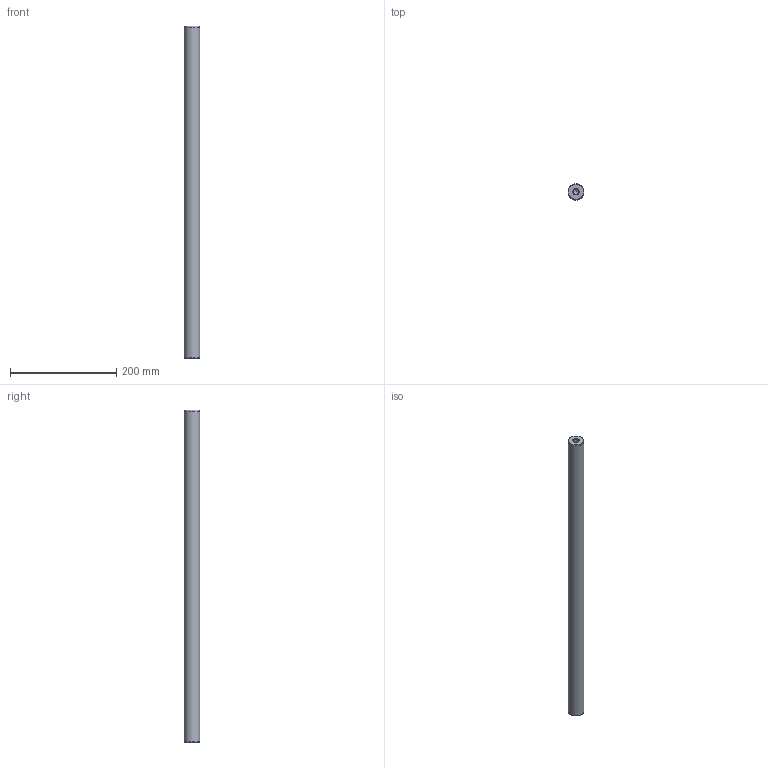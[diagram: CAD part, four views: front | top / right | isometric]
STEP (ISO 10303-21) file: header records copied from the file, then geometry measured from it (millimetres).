
FILE_DESCRIPTION( ( 'STEP AP214' ), '1' );
FILE_NAME( 'U:/Etudes/Top Solid/BIBLIO 3D AVM/STEP/G_GUIDAGE/Accessoires/Colonnes/Ø40x625.step', '2007-06-18T12:27:02', ( ' ' ), ( ' ' ), 'XStep 1.0', ' ', ' ' );
FILE_SCHEMA( ( 'automotive_design' ) );
Length unit declared in the file: metre
Products named in the file (1): 1
Bounding box: 30 x 30 x 625 mm (x, y, z)
Volume: 436454.3 mm3; surface area: 62228.3 mm2
Topology: 1 solids, 1 shells, 13 faces, 27 edges, 16 vertices
Faces by surface type: cone 6, cylinder 5, plane 2
Full cylindrical faces by diameter (mm): 10.106 x4, 30 x1
Entity records: 382 total; most frequent: DIRECTION 52, CARTESIAN_POINT 40, AXIS2_PLACEMENT_3D 26, EDGE_LOOP 24, ORIENTED_EDGE 24, FACE_OUTER_BOUND 18, VERTEX_POINT 14, STYLED_ITEM 13
